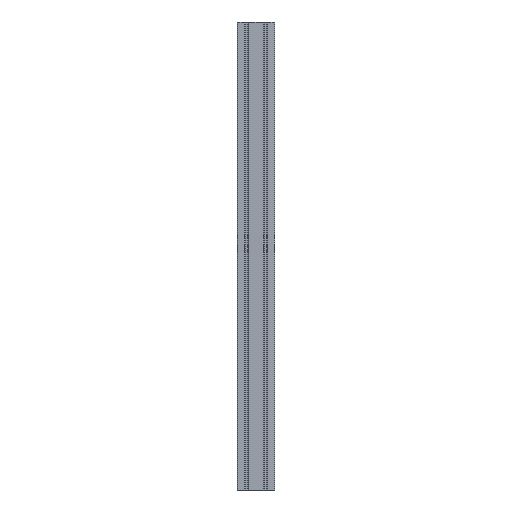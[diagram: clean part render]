
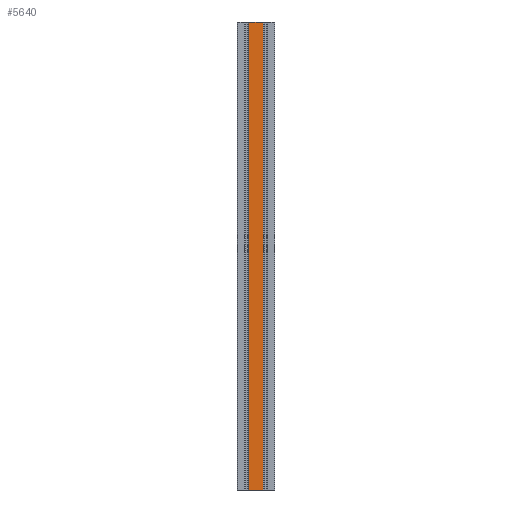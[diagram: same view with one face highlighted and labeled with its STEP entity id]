
A CAD part, front view. The second image highlights one B-rep face of the part: STEP entity #5640.
In plain terms, the highlighted planar face has unit normal (0, -1, 0).
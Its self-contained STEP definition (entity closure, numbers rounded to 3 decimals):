
#5582=CARTESIAN_POINT('',(285.417,130.067,1000.0));
#5583=VERTEX_POINT('',#5582);
#5591=CARTESIAN_POINT('',(285.417,130.067,0.0));
#5592=VERTEX_POINT('',#5591);
#5593=CARTESIAN_POINT('',(285.417,130.067,0.0));
#5594=DIRECTION('',(0.0,0.0,1.0));
#5595=VECTOR('',#5594,1000.0);
#5596=LINE('',#5593,#5595);
#5597=EDGE_CURVE('',#5592,#5583,#5596,.T.);
#5610=CARTESIAN_POINT('',(285.417,130.067,0.0));
#5611=DIRECTION('',(0.0,-1.0,0.0));
#5612=DIRECTION('',(0.0,0.0,-1.0));
#5613=AXIS2_PLACEMENT_3D('',#5610,#5611,#5612);
#5614=PLANE('',#5613);
#5615=CARTESIAN_POINT('',(254.717,130.067,1000.0));
#5616=VERTEX_POINT('',#5615);
#5617=CARTESIAN_POINT('',(285.417,130.067,1000.0));
#5618=DIRECTION('',(-1.0,0.0,0.0));
#5619=VECTOR('',#5618,30.7);
#5620=LINE('',#5617,#5619);
#5621=EDGE_CURVE('',#5583,#5616,#5620,.T.);
#5622=ORIENTED_EDGE('',*,*,#5621,.T.);
#5623=CARTESIAN_POINT('',(254.717,130.067,0.0));
#5624=VERTEX_POINT('',#5623);
#5625=CARTESIAN_POINT('',(254.717,130.067,0.0));
#5626=DIRECTION('',(0.0,0.0,1.0));
#5627=VECTOR('',#5626,1000.0);
#5628=LINE('',#5625,#5627);
#5629=EDGE_CURVE('',#5624,#5616,#5628,.T.);
#5630=ORIENTED_EDGE('',*,*,#5629,.F.);
#5631=CARTESIAN_POINT('',(254.717,130.067,0.0));
#5632=DIRECTION('',(1.0,0.0,0.0));
#5633=VECTOR('',#5632,30.7);
#5634=LINE('',#5631,#5633);
#5635=EDGE_CURVE('',#5624,#5592,#5634,.T.);
#5636=ORIENTED_EDGE('',*,*,#5635,.T.);
#5637=ORIENTED_EDGE('',*,*,#5597,.T.);
#5638=EDGE_LOOP('',(#5622,#5630,#5636,#5637));
#5639=FACE_OUTER_BOUND('',#5638,.T.);
#5640=ADVANCED_FACE('',(#5639),#5614,.T.);
